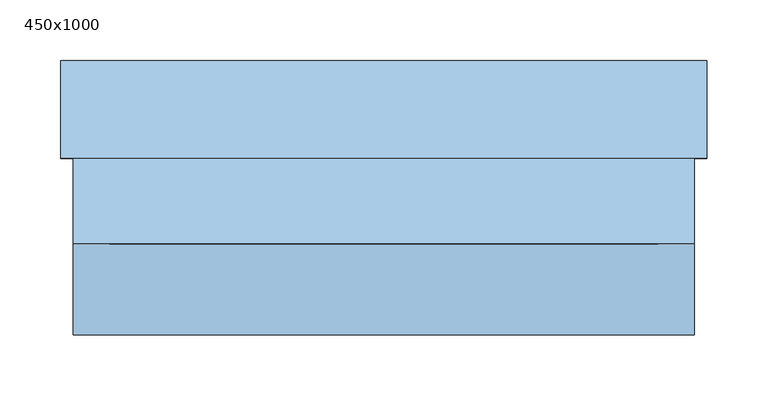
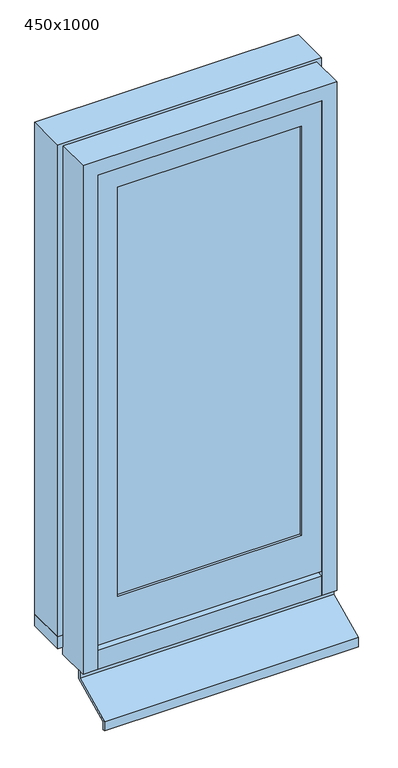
"""IFC4 building model written with IfcOpenShell, lengths in millimetres: window geometry, 鋼製_一般枠_嵌殺し : 450x1000."""

from ifc_helpers import new_model, si_unit, frame, origin, place, context, project, spatial, polyline, outline, extrude, source, transform, mapped, element, save


def window_450x1000_1cddc73c(model_context):
    return source(origin(), model_context, "Body", "SweptSolid", [
        extrude(outline(polyline([(185.0, -29.0), (185.0, -34.0), (-185.0, -34.0), (-185.0, -29.0), (185.0, -29.0)])), frame((0.0, 0.0, 1290.0), z_axis=(0.0, 0.0, 1.0), x_axis=(1.0, 0.0, 0.0)), (0.0, 0.0, 1.0), 870.0),
        extrude(outline(polyline([(2200.0, 225.0), (2200.0, -225.0), (1200.0, -225.0), (1200.0, 225.0), (2200.0, 225.0)]), holes=[polyline([(2160.0, 185.0), (1290.0, 185.0), (1290.0, -185.0), (2160.0, -185.0), (2160.0, 185.0)])]), frame((0.0, -39.0, 0.0), z_axis=(0.0, 1.0, 0.0), x_axis=(0.0, 0.0, 1.0)), (0.0, 0.0, 1.0), 30.0),
        extrude(outline(polyline([(265.0, 110.0), (265.0, 30.0), (-265.0, 30.0), (-265.0, 110.0), (265.0, 110.0)])), frame((0.0, 0.0, 1165.0), z_axis=(0.0, 0.0, 1.0), x_axis=(1.0, 0.0, 0.0)), (0.0, 0.0, 1.0), 25.0),
        extrude(outline(polyline([(-30.0, 1135.0), (-30.0, 1150.0), (-25.0, 1150.0), (-25.0, 1131.8269723), (-110.0014518, 1091.8262891), (-110.0014518, 1075.0), (-115.0, 1075.0), (-115.0, 1095.0), (-30.0, 1135.0)])), frame((-255.0, 0.0, 0.0), z_axis=(1.0, 0.0, 0.0), x_axis=(0.0, 1.0, 0.0)), (0.0, 0.0, 1.0), 510.0),
        extrude(outline(polyline([(1165.0, -240.0), (2210.0, -240.0), (2210.0, 240.0), (1165.0, 240.0), (1165.0, 265.0), (2235.0, 265.0), (2235.0, -265.0), (1165.0, -265.0), (1165.0, -240.0)])), frame((0.0, 30.0, 0.0), z_axis=(0.0, 1.0, 0.0), x_axis=(0.0, 0.0, 1.0)), (0.0, 0.0, 1.0), 80.0),
        extrude(outline(polyline([(1150.0, -225.0), (2200.0, -225.0), (2200.0, 225.0), (1150.0, 225.0), (1150.0, 255.0), (2230.0, 255.0), (2230.0, -255.0), (1150.0, -255.0), (1150.0, -225.0)])), frame((0.0, -40.0, 0.0), z_axis=(0.0, 1.0, 0.0), x_axis=(0.0, 0.0, 1.0)), (0.0, 0.0, 1.0), 70.0),
        extrude(outline(polyline([(30.0, 1150.0), (-40.0, 1150.0), (-40.0, 1190.6666667), (30.0, 1200.0), (30.0, 1150.0)])), frame((-225.0, 0.0, 0.0), z_axis=(1.0, 0.0, 0.0), x_axis=(0.0, 1.0, 0.0)), (0.0, 0.0, 1.0), 450.0),
    ])


if __name__ == "__main__":
    model = new_model("IFC4")
    model_context = context("Model", 3, world=origin())
    ifc_project = project(units=[si_unit("LENGTHUNIT", "METRE", prefix="MILLI")], contexts=[model_context])
    site = spatial("IfcSite", under=ifc_project)
    building = spatial("IfcBuilding", under=site)
    placement = place(None, origin())
    window_450x1000_shape = window_450x1000_1cddc73c(model_context)
    element("IfcWindow", 1, ObjectType="鋼製_一般枠_嵌殺し : 450x1000", at=placement, inside=building, context=model_context, shape_type="MappedRepresentation", body=[
        mapped(window_450x1000_shape, transform((0.0, 0.0, 0.0), x_axis=(1.0, 0.0, 0.0), y_axis=(0.0, 1.0, 0.0), z_axis=(0.0, 0.0, 1.0))),
    ])
    save(model, "model.ifc")
